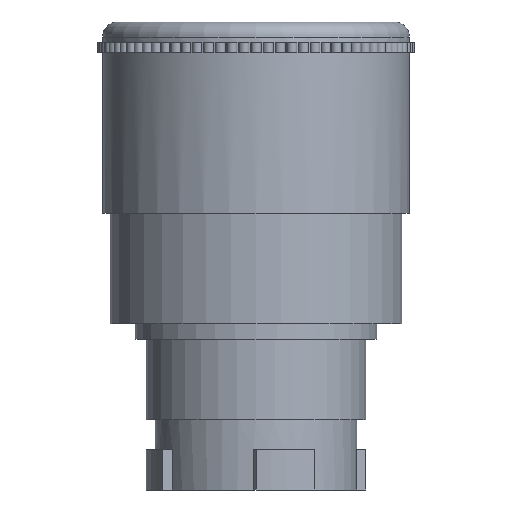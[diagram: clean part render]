
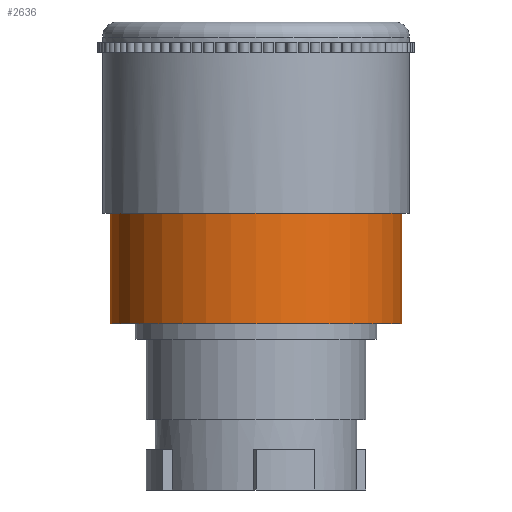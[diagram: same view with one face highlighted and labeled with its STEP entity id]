
A CAD part, front view. The second image highlights one B-rep face of the part: STEP entity #2636.
In plain terms, the highlighted cylindrical face has radius 14.5 mm (diameter 29 mm), a partial arc.
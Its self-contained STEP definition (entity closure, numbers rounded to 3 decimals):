
#274 = ORIENTED_EDGE ( 'NONE', *, *, #17469, .T. ) ;
#1113 = CARTESIAN_POINT ( 'NONE',  ( 0., 0., 0. ) ) ;
#1642 = VERTEX_POINT ( 'NONE', #1744 ) ;
#1744 = CARTESIAN_POINT ( 'NONE',  ( -14.5, 0., 0. ) ) ;
#1832 = AXIS2_PLACEMENT_3D ( 'NONE', #1113, #13057, #2819 ) ;
#2535 = AXIS2_PLACEMENT_3D ( 'NONE', #20129, #9758, #9827 ) ;
#2636 = ADVANCED_FACE ( 'NONE', ( #17553 ), #20014, .T. ) ;
#2819 = DIRECTION ( 'NONE',  ( 1., 0., 0. ) ) ;
#3554 = LINE ( 'NONE', #19704, #16667 ) ;
#4282 = CARTESIAN_POINT ( 'NONE',  ( 14.5, 0., 0. ) ) ;
#6378 = EDGE_CURVE ( 'NONE', #1642, #13997, #12736, .T. ) ;
#6601 = CARTESIAN_POINT ( 'NONE',  ( 14.5, 0., 11.5 ) ) ;
#8546 = ORIENTED_EDGE ( 'NONE', *, *, #6378, .T. ) ;
#8555 = EDGE_CURVE ( 'NONE', #19910, #13997, #17661, .T. ) ;
#8856 = DIRECTION ( 'NONE',  ( 0., 0., -1. ) ) ;
#9108 = CARTESIAN_POINT ( 'NONE',  ( -14.5, 0., 11. ) ) ;
#9400 = DIRECTION ( 'NONE',  ( 0., 0., -1. ) ) ;
#9758 = DIRECTION ( 'NONE',  ( 0., 0., -1. ) ) ;
#9827 = DIRECTION ( 'NONE',  ( -1., 0., 0. ) ) ;
#10074 = CARTESIAN_POINT ( 'NONE',  ( 14.5, 0., 11. ) ) ;
#10960 = ORIENTED_EDGE ( 'NONE', *, *, #8555, .F. ) ;
#12736 = CIRCLE ( 'NONE', #1832, 14.5 ) ;
#13057 = DIRECTION ( 'NONE',  ( 0., 0., 1. ) ) ;
#13618 = CIRCLE ( 'NONE', #19284, 14.5 ) ;
#13997 = VERTEX_POINT ( 'NONE', #4282 ) ;
#14187 = EDGE_CURVE ( 'NONE', #19910, #15304, #13618, .T. ) ;
#15163 = DIRECTION ( 'NONE',  ( 0., 0., -1. ) ) ;
#15304 = VERTEX_POINT ( 'NONE', #9108 ) ;
#15817 = ORIENTED_EDGE ( 'NONE', *, *, #14187, .T. ) ;
#16667 = VECTOR ( 'NONE', #9400, 1000. ) ;
#17135 = VECTOR ( 'NONE', #15163, 1000. ) ;
#17450 = EDGE_LOOP ( 'NONE', ( #10960, #15817, #274, #8546 ) ) ;
#17469 = EDGE_CURVE ( 'NONE', #15304, #1642, #3554, .T. ) ;
#17553 = FACE_OUTER_BOUND ( 'NONE', #17450, .T. ) ;
#17661 = LINE ( 'NONE', #6601, #17135 ) ;
#19152 = CARTESIAN_POINT ( 'NONE',  ( 0., 0., 11. ) ) ;
#19284 = AXIS2_PLACEMENT_3D ( 'NONE', #19152, #8856, #20911 ) ;
#19704 = CARTESIAN_POINT ( 'NONE',  ( -14.5, 0., 11.5 ) ) ;
#19910 = VERTEX_POINT ( 'NONE', #10074 ) ;
#20014 = CYLINDRICAL_SURFACE ( 'NONE', #2535, 14.5 ) ;
#20129 = CARTESIAN_POINT ( 'NONE',  ( 0., 0., 11.5 ) ) ;
#20911 = DIRECTION ( 'NONE',  ( -1., 0., 0. ) ) ;
